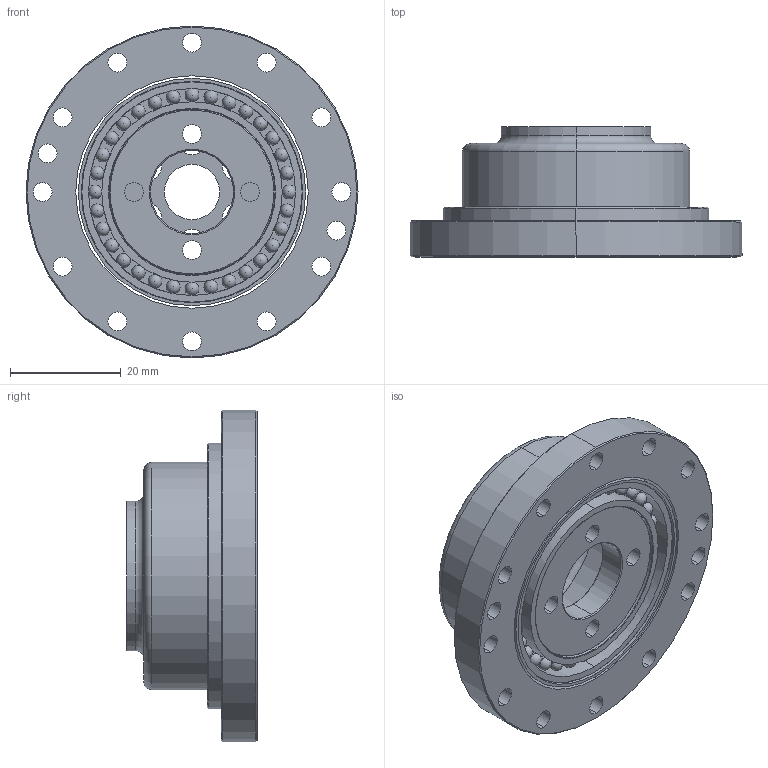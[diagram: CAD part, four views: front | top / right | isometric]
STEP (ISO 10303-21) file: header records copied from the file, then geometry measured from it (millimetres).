
FILE_DESCRIPTION (( 'STEP AP203' ), '1' );
FILE_NAME ('PGK 13-160.STEP', '2022-03-06T14:33:17', ( '' ), ( '' ), 'SwSTEP 2.0', 'SolidWorks 2018', '' );
FILE_SCHEMA (( 'CONFIG_CONTROL_DESIGN' ));
Length unit declared in the file: millimetre
Products named in the file (5): PGK13-160-04; PGK13-160-03; PGK13-160-02; PGK 13-160; PGK13-160-01
Assembly tree (4 placements, depth 2):
  PGK 13-160
    PGK13-160-01
    PGK13-160-02
    PGK13-160-04
    PGK13-160-03
Bounding box: 60 x 23.5 x 60 mm (x, y, z)
Volume: 17044.1 mm3; surface area: 19916 mm2
Topology: 4 solids, 4 shells, 183 faces, 748 edges, 510 vertices
Faces by surface type: cylinder 76, sphere 64, torus 14, plane 13, cone 10, bspline 6
Entity records: 11785 total; most frequent: CARTESIAN_POINT 5980, ORIENTED_EDGE 1120, DIRECTION 1096, EDGE_CURVE 560, AXIS2_PLACEMENT_3D 502, VERTEX_POINT 386, CIRCLE 318, EDGE_LOOP 308
